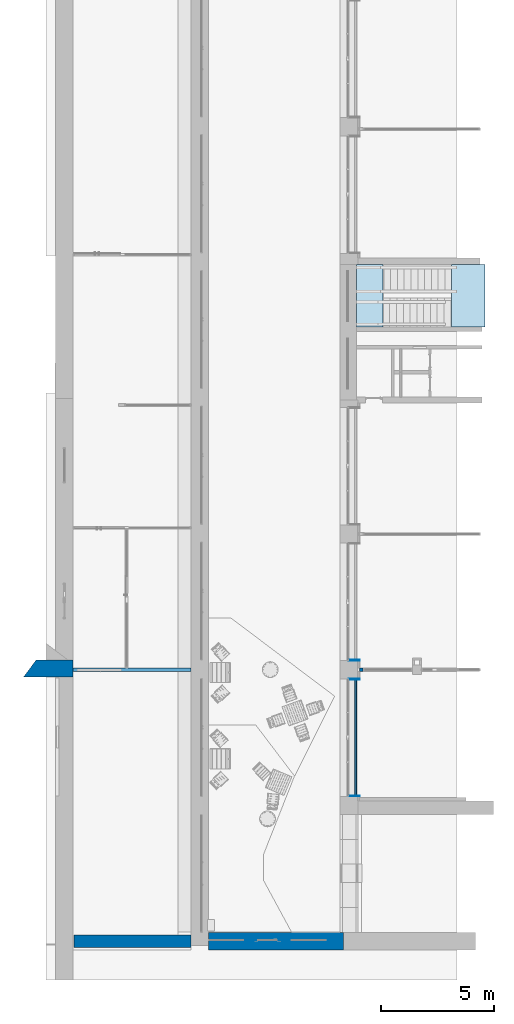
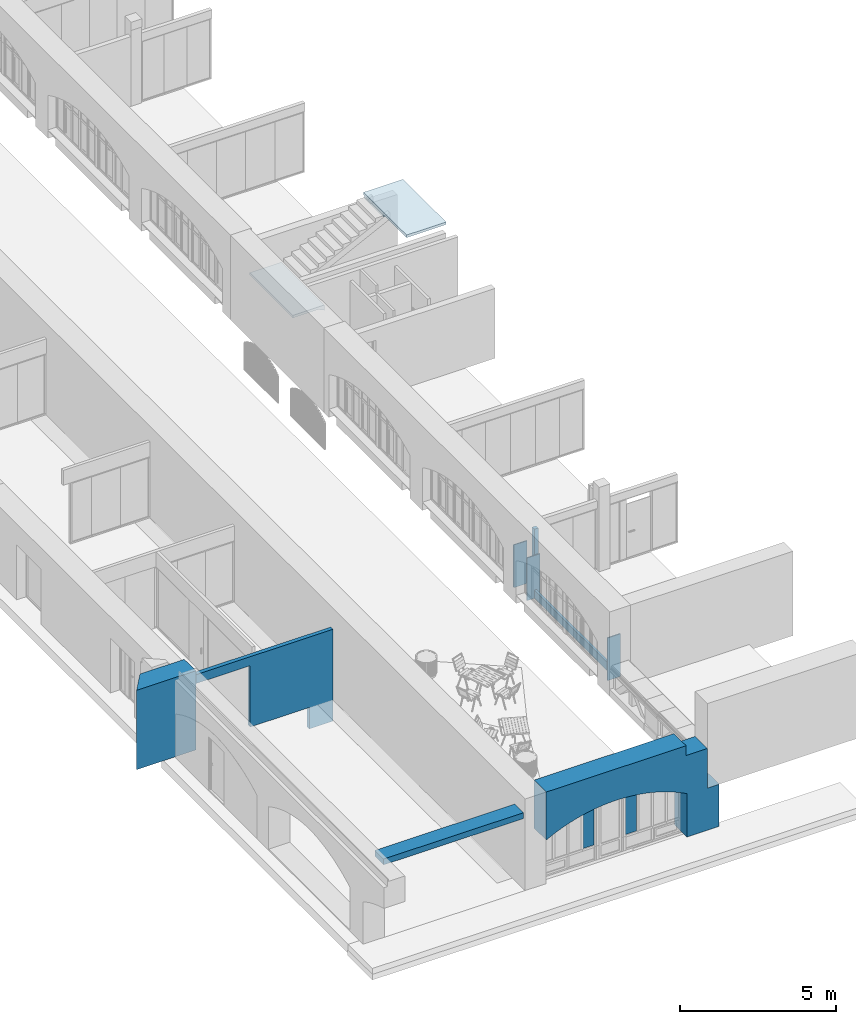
# One storey, part 70 of 88: 9 walls, 2 plates, 2 slabs, 6 openings, 3 elements without a shape of their own.
"""IFC2X3 building model written with IfcOpenShell, lengths in millimetres."""

from ifc_helpers import new_model, entity, si_unit, converted_unit, derived_unit, direction, frame, frame_2d, origin, origin_2d_with_axis, place, context, subcontext, project, spatial, polyline, circle_curve, parameter, trimmed, segment, composite_curve, rectangle, outline, extrude, clip, bounded_halfspace, face_set, faceted_brep, surface_model, source, transform, mapped, material, layer, layer_set, layer_usage, type_object, type_shapes, element, aggregate, save


model = new_model("IFC2X3")

# Units and contexts
model_context = context("Model", 3, precision=0.01, world=origin(), true_north=direction((6.123031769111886e-17, 1.0)))
body_context = subcontext(model_context, "Body", "Model", "MODEL_VIEW")
ifc_project = project(units=[si_unit("LENGTHUNIT", "METRE", prefix="MILLI"), si_unit("AREAUNIT", "SQUARE_METRE"), si_unit("VOLUMEUNIT", "CUBIC_METRE"), converted_unit("PLANEANGLEUNIT", "DEGREE", entity("IfcPlaneAngleMeasure", 0.017453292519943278), si_unit("PLANEANGLEUNIT", "RADIAN"), dimensions=[0, 0, 0, 0, 0, 0, 0]), si_unit("MASSUNIT", "GRAM", prefix="KILO"), derived_unit("MASSDENSITYUNIT", [(si_unit("MASSUNIT", "GRAM", prefix="KILO"), 1), (si_unit("LENGTHUNIT", "METRE"), -3)]), derived_unit("IONCONCENTRATIONUNIT", [(si_unit("MASSUNIT", "GRAM", prefix="KILO"), 1), (si_unit("LENGTHUNIT", "METRE"), -3)]), derived_unit("MOMENTOFINERTIAUNIT", [(si_unit("LENGTHUNIT", "METRE"), 4)]), si_unit("TIMEUNIT", "SECOND"), si_unit("FREQUENCYUNIT", "HERTZ"), si_unit("THERMODYNAMICTEMPERATUREUNIT", "DEGREE_CELSIUS"), derived_unit("THERMALTRANSMITTANCEUNIT", [(si_unit("MASSUNIT", "GRAM", prefix="KILO"), 1), (si_unit("THERMODYNAMICTEMPERATUREUNIT", "KELVIN"), -1), (si_unit("TIMEUNIT", "SECOND"), -3)]), derived_unit("THERMALCONDUCTANCEUNIT", [(si_unit("MASSUNIT", "GRAM", prefix="KILO"), 1), (si_unit("THERMODYNAMICTEMPERATUREUNIT", "KELVIN"), -1), (si_unit("TIMEUNIT", "SECOND"), -3), (si_unit("LENGTHUNIT", "METRE"), 1)]), derived_unit("VOLUMETRICFLOWRATEUNIT", [(si_unit("LENGTHUNIT", "METRE", prefix="DECI"), 3), (si_unit("TIMEUNIT", "SECOND"), -1)]), derived_unit("MASSFLOWRATEUNIT", [(si_unit("MASSUNIT", "GRAM", prefix="KILO"), 1), (si_unit("TIMEUNIT", "SECOND"), -1)]), derived_unit("ROTATIONALFREQUENCYUNIT", [(si_unit("TIMEUNIT", "SECOND"), -1)]), si_unit("ELECTRICCURRENTUNIT", "AMPERE"), si_unit("ELECTRICVOLTAGEUNIT", "VOLT"), si_unit("POWERUNIT", "WATT"), si_unit("FORCEUNIT", "NEWTON", prefix="KILO"), si_unit("ILLUMINANCEUNIT", "LUX"), si_unit("LUMINOUSFLUXUNIT", "LUMEN"), si_unit("LUMINOUSINTENSITYUNIT", "CANDELA"), si_unit("ENERGYUNIT", "JOULE"), derived_unit("USERDEFINED", [(si_unit("MASSUNIT", "GRAM", prefix="KILO"), -1), (si_unit("LENGTHUNIT", "METRE"), -2), (si_unit("TIMEUNIT", "SECOND"), 3), (si_unit("LUMINOUSFLUXUNIT", "LUMEN"), 1)]), derived_unit("USERDEFINED", [(si_unit("MASSUNIT", "GRAM", prefix="KILO"), 1), (si_unit("TIMEUNIT", "SECOND"), -3), (si_unit("LENGTHUNIT", "METRE"), 3), (si_unit("ELECTRICCURRENTUNIT", "AMPERE"), -2)]), derived_unit("SOUNDPOWERUNIT", [(si_unit("MASSUNIT", "GRAM", prefix="KILO"), 1), (si_unit("TIMEUNIT", "SECOND"), -3), (si_unit("LENGTHUNIT", "METRE"), 2)]), derived_unit("SOUNDPRESSUREUNIT", [(si_unit("MASSUNIT", "GRAM", prefix="KILO"), 1), (si_unit("LENGTHUNIT", "METRE"), -1), (si_unit("TIMEUNIT", "SECOND"), -2)]), derived_unit("LINEARVELOCITYUNIT", [(si_unit("LENGTHUNIT", "METRE"), 1), (si_unit("TIMEUNIT", "SECOND"), -1)]), si_unit("PRESSUREUNIT", "PASCAL"), derived_unit("USERDEFINED", [(si_unit("MASSUNIT", "GRAM", prefix="KILO"), 1), (si_unit("LENGTHUNIT", "METRE"), -2), (si_unit("TIMEUNIT", "SECOND"), -2)]), derived_unit("LINEARFORCEUNIT", [(si_unit("MASSUNIT", "GRAM", prefix="KILO"), 1), (si_unit("TIMEUNIT", "SECOND"), -2)]), derived_unit("PLANARFORCEUNIT", [(si_unit("MASSUNIT", "GRAM", prefix="KILO"), 1), (si_unit("LENGTHUNIT", "METRE"), -1), (si_unit("TIMEUNIT", "SECOND"), -2)]), derived_unit("SPECIFICHEATCAPACITYUNIT", [(si_unit("THERMODYNAMICTEMPERATUREUNIT", "KELVIN"), -1), (si_unit("LENGTHUNIT", "METRE"), 2), (si_unit("TIMEUNIT", "SECOND"), -2)]), derived_unit("HEATFLUXDENSITYUNIT", [(si_unit("MASSUNIT", "GRAM", prefix="KILO"), 1), (si_unit("TIMEUNIT", "SECOND"), -3)]), derived_unit("HEATINGVALUEUNIT", [(si_unit("LENGTHUNIT", "METRE"), 2), (si_unit("TIMEUNIT", "SECOND"), -2)]), derived_unit("VAPORPERMEABILITYUNIT", [(si_unit("LENGTHUNIT", "METRE"), -1), (si_unit("TIMEUNIT", "SECOND"), 1)]), derived_unit("DYNAMICVISCOSITYUNIT", [(si_unit("MASSUNIT", "GRAM", prefix="KILO"), 1), (si_unit("TIMEUNIT", "SECOND"), -1), (si_unit("LENGTHUNIT", "METRE"), -1)]), derived_unit("THERMALEXPANSIONCOEFFICIENTUNIT", [(si_unit("THERMODYNAMICTEMPERATUREUNIT", "KELVIN"), -1)]), derived_unit("MODULUSOFELASTICITYUNIT", [(si_unit("MASSUNIT", "GRAM", prefix="KILO"), 1), (si_unit("LENGTHUNIT", "METRE"), -1), (si_unit("TIMEUNIT", "SECOND"), -2)]), derived_unit("ISOTHERMALMOISTURECAPACITYUNIT", [(si_unit("MASSUNIT", "GRAM", prefix="KILO"), -1), (si_unit("LENGTHUNIT", "METRE"), 3)]), derived_unit("MOISTUREDIFFUSIVITYUNIT", [(si_unit("TIMEUNIT", "SECOND"), -1), (si_unit("LENGTHUNIT", "METRE"), 2)]), derived_unit("MASSPERLENGTHUNIT", [(si_unit("MASSUNIT", "GRAM", prefix="KILO"), 1), (si_unit("LENGTHUNIT", "METRE"), -1)]), derived_unit("THERMALRESISTANCEUNIT", [(si_unit("MASSUNIT", "GRAM", prefix="KILO"), -1), (si_unit("TIMEUNIT", "SECOND"), 3), (si_unit("THERMODYNAMICTEMPERATUREUNIT", "KELVIN"), 1)]), derived_unit("ACCELERATIONUNIT", [(si_unit("LENGTHUNIT", "METRE"), 1), (si_unit("TIMEUNIT", "SECOND"), -2)]), derived_unit("ANGULARVELOCITYUNIT", [(si_unit("TIMEUNIT", "SECOND"), -1), (si_unit("PLANEANGLEUNIT", "RADIAN"), 1)]), derived_unit("LINEARSTIFFNESSUNIT", [(si_unit("MASSUNIT", "GRAM", prefix="KILO"), 1), (si_unit("TIMEUNIT", "SECOND"), -2)]), derived_unit("WARPINGCONSTANTUNIT", [(si_unit("LENGTHUNIT", "METRE"), 6)]), derived_unit("LINEARMOMENTUNIT", [(si_unit("MASSUNIT", "GRAM", prefix="KILO"), 1), (si_unit("LENGTHUNIT", "METRE"), 1), (si_unit("TIMEUNIT", "SECOND"), -2)]), derived_unit("TORQUEUNIT", [(si_unit("MASSUNIT", "GRAM", prefix="KILO"), 1), (si_unit("LENGTHUNIT", "METRE"), 2), (si_unit("TIMEUNIT", "SECOND"), -2)])], contexts=[model_context])

# Site, building, storey
site_placement = place(None, origin())
site = spatial("IfcSite", under=ifc_project, at=site_placement, Name="Default", CompositionType="ELEMENT")
building_placement = place(site_placement, origin())
building = spatial("IfcBuilding", under=site, at=building_placement, Name="Eesti Rahvusraamatukogu hoone renoveerimise projekteerimistööd", CompositionType="ELEMENT")
storey_placement = place(building_placement, origin())
storey = spatial("IfcBuildingStorey", under=building, at=storey_placement, Name="1. korrus", CompositionType="ELEMENT", Elevation=0.0)

# Stair, slab
stair_1_placement = place(storey_placement, origin())
stair_1 = element("IfcStair", 1, at=stair_1_placement, inside=storey, Name="Cast-In-Place Stair:Stair", ObjectType="Cast-In-Place Stair:ol. olev trepp, 150x300 H=55", ShapeType="STRAIGHT_RUN_STAIR")
ifc_material_1 = material(Name="ol. olev materjal")
slab_type = type_object("IfcSlabType", Name="Monolithic Landing:100 mm Thickness", PredefinedType="LANDING")
slab_1_placement = place(stair_1_placement, frame((-36060.0, 27545.0, 0.0)))
slab_1 = element("IfcSlab", 2, at=slab_1_placement, type_object=slab_type, material=ifc_material_1, Name="Cast-In-Place Stair:Stair:4087577 Landing 1", ObjectType="Monolithic Landing:100 mm Thickness", PredefinedType="LANDING", context=body_context, shape_type="Brep", body=[
    faceted_brep([(1170.0, 0.0, 3231.666666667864), (1170.0, 1170.0, 3231.666666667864), (1170.0, 2760.0, 3231.666666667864), (0.0, 2760.0, 3231.666666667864), (0.0, 0.0, 3231.666666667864), (948.1567494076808, 0.0, 3231.666666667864), (0.0, 2760.0, 3131.6666666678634), (0.0, 0.0, 3131.6666666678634), (1170.0, 0.0, 3021.9775038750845), (1170.0, 0.0, 3083.3333333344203), (948.1567494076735, 0.0, 3131.666666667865), (1170.0, 2760.0, 3131.6666666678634), (948.1567494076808, 1170.0, 3131.6666666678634), (1170.0, 1170.0, 3131.6666666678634), (1170.0, 1170.0, 3021.9775038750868), (1170.0, 1170.0, 3083.3333333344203)], [[[0, 1, 2, 3, 4, 5]], [[4, 3, 6, 7]], [[8, 9, 0, 5, 4, 7, 10]], [[3, 2, 11, 6]], [[12, 10, 7, 6, 11, 13]], [[1, 0, 9, 8, 14, 15, 13]], [[2, 1, 13, 11]], [[10, 12, 14, 8]], [[12, 13, 15, 14]]]),
])
aggregate(stair_1, [slab_1])

stair_2_placement = place(storey_placement, origin())
stair_2 = element("IfcStair", 3, at=stair_2_placement, inside=storey, Name="Cast-In-Place Stair:Stair", ObjectType="Cast-In-Place Stair:ol. olev trepp, 150x300 H=55", ShapeType="STRAIGHT_RUN_STAIR")
slab_2_placement = place(stair_2_placement, frame((-31850.0, 27545.0, 0.0)))
slab_2 = element("IfcSlab", 4, at=slab_2_placement, type_object=slab_type, material=ifc_material_1, Name="Cast-In-Place Stair:Stair:4087629 Landing 1", ObjectType="Monolithic Landing:100 mm Thickness", PredefinedType="LANDING", context=body_context, shape_type="Brep", body=[
    faceted_brep([(0.0, 2690.0, 4900.000000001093), (0.0, 1490.0, 4900.000000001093), (0.0, 0.0, 4900.000000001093), (1460.0, 0.0, 4900.000000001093), (1460.0, 2760.0, 4900.000000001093), (0.0, 2760.0, 4900.000000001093), (1460.0, 0.0, 4800.000000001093), (1460.0, 2760.0, 4800.000000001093), (0.0, 0.0, 4800.000000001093), (0.0, 2760.0, 4800.000000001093), (221.84325059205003, 1490.0, 4800.000000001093), (221.84325059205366, 2690.0, 4800.000000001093), (0.0, 2690.0, 4800.000000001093), (0.0, 1490.0, 4800.000000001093), (0.0, 2690.0, 4751.66666666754), (0.0, 2690.0, 4690.310837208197), (0.0, 1490.0, 4690.3108372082), (0.0, 1490.0, 4751.66666666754)], [[[0, 1, 2, 3, 4, 5]], [[4, 3, 6, 7]], [[3, 2, 8, 6]], [[5, 4, 7, 9]], [[10, 11, 12, 9, 7, 6, 8, 13]], [[2, 1, 13, 8]], [[1, 0, 12, 14, 15, 16, 17, 13]], [[11, 10, 16, 15]], [[12, 11, 15, 14]], [[10, 13, 17, 16]], [[0, 5, 9, 12]]]),
])
aggregate(stair_2, [slab_2])

# Curtain wall, plates
curtain_wall_type = type_object("IfcCurtainWallType", Name="Curtain Wall:Ak-05", PredefinedType="NOTDEFINED")
curtain_wall_placement = place(storey_placement, origin())
curtain_wall = element("IfcCurtainWall", 5, at=curtain_wall_placement, inside=storey, type_object=curtain_wall_type, Name="Curtain Wall:Ak-05", ObjectType="Curtain Wall:Ak-05")
ifc_material_2 = material(Name="EST. Klaas. 3x. Default")
plate_type_1 = type_object("IfcPlateType", Name="System Panel:Peegelaknad 6-16-4-16-4, paneel", PredefinedType="CURTAIN_PANEL", material=ifc_material_2)
shared_shape_1 = source(origin(), body_context, "Body", "SurfaceModel", [
    surface_model("IfcFaceBasedSurfaceModel", [(-245.0, -5.0, 0.0), (170.0, -5.0, 0.0), (170.0, -5.0, 1750.0), (245.0, -5.0, 1750.0), (245.0, -5.0, 1727.071862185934), (93.20177957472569, -5.0, 1710.9791643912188), (-58.08758672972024, -5.0, 1690.6517865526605), (-151.678630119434, -5.0, 1675.9125069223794), (-245.0, -5.0, 1659.5524430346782), (-245.0, 5.0, 0.0), (-245.0, 5.0, 1659.55244303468), (-151.678630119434, 5.0, 1675.9125069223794), (-58.087586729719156, 5.0, 1690.6517865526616), (93.20177957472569, 5.0, 1710.9791643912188), (245.0, 5.0, 1727.0718621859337), (245.0, 5.0, 1750.0), (170.0, 5.0, 1750.0), (170.0, 5.0, 0.0)], [face_set([[[0, 1, 2, 3, 4, 5, 6, 7, 8]], [[9, 10, 11, 12, 13, 14, 15, 16, 17]], [[1, 0, 9, 17]], [[2, 1, 17, 16]], [[3, 15, 16, 2]], [[4, 14, 15, 3]], [[5, 4, 14, 13]], [[12, 6, 5, 13]], [[7, 6, 12, 11]], [[10, 8, 7, 11]], [[0, 8, 10, 9]]])]),
])
type_shapes(plate_type_1, [shared_shape_1])
plate_1_placement = place(curtain_wall_placement, frame((-39245.0, 440.0, 540.0), z_axis=(0.0, 0.0, 1.0), x_axis=(-1.0, 0.0, 0.0)))
plate_1 = element("IfcPlate", 6, at=plate_1_placement, type_object=plate_type_1, material=ifc_material_2, Name="System Panel:Peegelaknad 6-16-4-16-4, paneel", ObjectType="System Panel:Peegelaknad 6-16-4-16-4, paneel", context=body_context, shape_type="MappedRepresentation", body=[
    mapped(shared_shape_1, transform((0.0, 0.0, 0.0), scale=1.0)),
])
plate_type_2 = type_object("IfcPlateType", Name="System Panel:Peegelaknad 6-16-4-16-4, paneel", PredefinedType="CURTAIN_PANEL", material=ifc_material_2)
shared_shape_2 = source(origin(), body_context, "Body", "SurfaceModel", [
    surface_model("IfcFaceBasedSurfaceModel", [(-170.0, -5.0, 0.0), (245.0, -5.0, 0.0), (245.0, -5.0, 1659.552443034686), (151.67863011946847, -5.0, 1675.9125069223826), (58.087586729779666, -5.0, 1690.6517865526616), (-93.20177957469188, -5.0, 1710.979164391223), (-245.0, -5.0, 1727.0718621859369), (-245.0, -5.0, 1750.0), (-170.0, -5.0, 1750.0), (-170.0, 5.0, 0.0), (245.0, 5.0, 0.0), (245.0, 5.0, 1659.552443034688), (151.67863011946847, 5.0, 1675.9125069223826), (58.087586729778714, 5.0, 1690.6517865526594), (-93.20177957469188, 5.0, 1710.979164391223), (-245.0, 5.0, 1727.0718621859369), (-245.0, 5.0, 1750.0), (-170.0, 5.0, 1750.0)], [face_set([[[0, 1, 2, 3, 4, 5, 6, 7, 8]], [[9, 10, 11, 12, 13, 14, 15, 16, 17]], [[1, 0, 9, 10]], [[2, 1, 10, 11]], [[3, 2, 11, 12]], [[13, 4, 3, 12]], [[5, 4, 13, 14]], [[15, 6, 5, 14]], [[7, 16, 15, 6]], [[8, 17, 16, 7]], [[0, 8, 17, 9]]])]),
])
type_shapes(plate_type_2, [shared_shape_2])
plate_2_placement = place(curtain_wall_placement, frame((-40735.0, 440.0, 540.0), z_axis=(0.0, 0.0, 1.0), x_axis=(-1.0, 0.0, 0.0)))
plate_2 = element("IfcPlate", 7, at=plate_2_placement, type_object=plate_type_2, material=ifc_material_2, Name="System Panel:Peegelaknad 6-16-4-16-4, paneel", ObjectType="System Panel:Peegelaknad 6-16-4-16-4, paneel", context=body_context, shape_type="MappedRepresentation", body=[
    mapped(shared_shape_2, transform((0.0, 0.0, 0.0), scale=1.0)),
])
aggregate(curtain_wall, [plate_1, plate_2])

# Wall, openings
ifc_layer_1 = layer(ifc_material_1, 780.0)
ifc_layer_set_1 = layer_set([ifc_layer_1], Name="Basic Wall:ol. olev - 780mm")
ifc_layer_usage_1 = layer_usage(ifc_layer_set_1, "AXIS2", "NEGATIVE", 390.0)
wall_type_1 = type_object("IfcWallType", Name="Basic Wall:ol. olev - 780mm", PredefinedType="STANDARD", material=ifc_layer_set_1)
wall_1_placement = place(storey_placement, frame((-36190.0, 390.0, 0.0), z_axis=(0.0, 0.0, 1.0), x_axis=(-1.0, 0.0, 0.0)))
wall_1 = element("IfcWallStandardCase", 8, at=wall_1_placement, inside=storey, type_object=wall_type_1, material=ifc_layer_usage_1, Name="Basic Wall:ol. olev - 780mm", ObjectType="Basic Wall:ol. olev - 780mm", context=body_context, shape_type="Clipping", body=[
    clip(clip(clip(clip(extrude(rectangle(XDim=6400.000000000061, YDim=779.9999999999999, at=frame_2d((3200.0000000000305, 2.842170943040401e-14), x_axis=(-1.0, 0.0))), origin(), (0.0, 0.0, 1.0), 3580.0), bounded_halfspace(frame((1220.0, 390.0, 3200.0), z_axis=(1.0, 0.0, 0.0), x_axis=(0.0, 1.0, 0.0)), True, frame((1220.0, 390.0, 3200.0), z_axis=(1.0, 0.0, 0.0), x_axis=(0.0, 1.0, 0.0)), polyline([(0.0, 0.0), (0.0, 380.0), (-780.0, 380.0), (-780.0, 0.0), (0.0, 0.0)]))), bounded_halfspace(frame((1220.0, -390.0, 3200.0), z_axis=(0.0, 0.0, -1.0), x_axis=(1.0, 0.0, 0.0)), True, frame((1220.0, -390.0, 3200.0), z_axis=(0.0, 0.0, -1.0), x_axis=(1.0, 0.0, 0.0)), polyline([(0.0, 0.0), (-780.0, 0.0), (-780.0, -780.0), (0.0, -780.0), (0.0, 0.0)]))), bounded_halfspace(frame((440.0, -390.0, 1650.0), z_axis=(0.0, 0.0, -1.0), x_axis=(0.0, 1.0, 0.0)), True, frame((440.0, -390.0, 1650.0), z_axis=(0.0, 0.0, -1.0), x_axis=(0.0, 1.0, 0.0)), polyline([(0.0, 0.0), (0.0, -439.826577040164), (0.0, -440.0), (780.0, -440.0), (780.0, 0.0), (0.0, 0.0)]))), bounded_halfspace(frame((440.0, 390.0, 1650.0), z_axis=(1.0, 0.0, 0.0), x_axis=(0.0, 1.0, 0.0)), True, frame((440.0, 390.0, 1650.0), z_axis=(1.0, 0.0, 0.0), x_axis=(0.0, 1.0, 0.0)), polyline([(0.0, 0.0), (0.0, 1550.0), (-780.0, 1550.0), (-780.0, 0.0), (0.0, 0.0)]))),
])
opening_1_placement = place(wall_1_placement, frame((6401.595272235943, 542.4000000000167, -50.0)))
element("IfcOpeningElement", 9, at=opening_1_placement, cuts=wall_1, Name="Basic Wall:ol. olev - 780mm", ObjectType="Opening", context=body_context, shape_type="SweptSolid", body=[
    extrude(outline(composite_curve([segment(polyline([(-874.8853279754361, -2600.0), (874.8853279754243, -2600.0)]), True, "CONTINUOUS"), segment(trimmed(circle_curve(frame_2d((-3998.1658947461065, 0.0), x_axis=(0.0, -1.0)), 5523.28056677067), [parameter(61.91799981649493)], [parameter(118.08200018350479)], True, "PARAMETER"), True, "CONTINUOUS"), segment(polyline([(874.885327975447, 2600.0), (-874.8853279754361, 2600.0)]), True, "CONTINUOUS"), segment(polyline([(-874.8853279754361, 2600.0), (-874.8853279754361, -2600.0)]), True, "CONTINUOUS")], self_intersect=False)), frame((-2601.595272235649, -1084.800000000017, 874.8853279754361), z_axis=(0.0, 1.0, 0.0), x_axis=(0.0, 0.0, 1.0)), (0.0, 0.0, 1.0), 1084.8),
])
opening_2_placement = place(wall_1_placement, frame((-36190.0, 390.0, 0.0)))
element("IfcOpeningElement", 10, at=opening_2_placement, cuts=wall_1, Name="Basic Wall:ol. olev - 780mm", ObjectType="Opening", context=body_context, shape_type="Brep", body=[
    faceted_brep([(30000.0, 0.0, 0.0), (30000.0, 0.0, 1660.0), (30000.0, 442.85686824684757, 1885.1089561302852), (30000.0, 904.3315182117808, 2069.0583929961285), (30000.0, 1263.7008843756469, 2166.8178757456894), (30000.0, 1623.0702505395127, 2264.577358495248), (30000.0, 2114.136035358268, 2339.748116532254), (30000.0, 2610.0, 2370.0), (30000.0, 3105.863964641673, 2339.748116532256), (30000.0, 3596.9297494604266, 2264.5773584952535), (30000.0, 3956.299115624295, 2166.8178757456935), (30000.0, 4315.668481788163, 2069.0583929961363), (30000.0, 4777.143131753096, 1885.108956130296), (30000.0, 5220.0, 1660.0), (30000.0, 5220.0, 0.0), (30780.0, 5220.0, 0.0), (30780.0, 5220.0, 1660.0), (30780.0, 4777.143131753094, 1885.108956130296), (30780.0, 4315.668481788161, 2069.0583929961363), (30780.0, 3956.2991156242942, 2166.817875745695), (30780.0, 3596.9297494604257, 2264.5773584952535), (30780.0, 3105.8639646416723, 2339.748116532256), (30780.0, 2610.0, 2370.0), (30780.0, 2114.1360353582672, 2339.748116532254), (30780.0, 1623.0702505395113, 2264.577358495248), (30780.0, 1263.700884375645, 2166.817875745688), (30780.0, 904.3315182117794, 2069.0583929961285), (30780.0, 442.8568682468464, 1885.1089561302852), (30780.0, 0.0, 1660.0), (30780.0, 0.0, 0.0)], [[[0, 1, 2, 3, 4, 5, 6, 7, 8, 9, 10, 11, 12, 13, 14]], [[15, 16, 17, 18, 19, 20, 21, 22, 23, 24, 25, 26, 27, 28, 29]], [[1, 0, 29, 28]], [[2, 1, 28, 27]], [[3, 2, 27, 26]], [[5, 4, 3, 26, 25, 24]], [[6, 5, 24, 23]], [[7, 6, 23, 22]], [[8, 7, 22, 21]], [[9, 8, 21, 20]], [[11, 10, 9, 20, 19, 18]], [[12, 11, 18, 17]], [[13, 12, 17, 16]], [[14, 13, 16, 15]], [[0, 14, 15, 29]]]),
])
opening_3_placement = place(wall_1_placement, frame((12390.0, 542.4000000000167, 0.0)))
element("IfcOpeningElement", 11, at=opening_3_placement, cuts=wall_1, Name="Basic Wall:ol. olev - 780mm", ObjectType="Opening", context=body_context, shape_type="SweptSolid", body=[
    extrude(rectangle(XDim=2550.000000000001, YDim=5199.999999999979, at=origin_2d_with_axis()), frame((-2600.0, -1084.800000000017, 1275.0), z_axis=(0.0, 1.0, 0.0), x_axis=(0.0, 0.0, 1.0)), (0.0, 0.0, 1.0), 1084.8),
])

# Walls
ifc_layer_2 = layer(ifc_material_1, 740.0)
ifc_layer_set_2 = layer_set([ifc_layer_2], Name="Basic Wall:ol. olev - 740mm")
ifc_layer_usage_2 = layer_usage(ifc_layer_set_2, "AXIS2", "NEGATIVE", 370.0)
wall_type_2 = type_object("IfcWallType", Name="Basic Wall:ol. olev - 740mm", PredefinedType="STANDARD", material=ifc_layer_set_2)
wall_2_placement = place(storey_placement, frame((-48580.0, 12445.0, 0.0), z_axis=(0.0, 0.0, 1.0), x_axis=(-1.0, 0.0, 0.0)))
element("IfcWallStandardCase", 12, at=wall_2_placement, inside=storey, type_object=wall_type_2, material=ifc_layer_usage_2, Name="Basic Wall:ol. olev - 740mm", ObjectType="Basic Wall:ol. olev - 740mm", context=body_context, shape_type="SweptSolid", body=[
    extrude(outline(polyline([(1639.8146096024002, -370.0), (2193.1550955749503, 370.0), (1281.6364076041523, 370.0), (780.0, 370.0), (0.0, 370.0), (0.0, -370.0), (222.41069222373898, -370.0), (1385.558791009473, -370.0), (1639.8146096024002, -370.0)])), origin(), (0.0, 0.0, 1.0), 3100.0),
])
ifc_material_3 = material(Name="EST. Ehitusplaat. Kipsplaat")
ifc_layer_3 = layer(ifc_material_3, 12.5)
ifc_layer_4 = layer(ifc_material_3, 12.5)
ifc_material_4 = material(Name="EST. Roov. Kipsplaadi alusroov.Mineraalvillaga. Vertikaalne")
ifc_layer_5 = layer(ifc_material_4, 95.00000000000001)
ifc_layer_6 = layer(ifc_material_3, 12.5)
ifc_layer_7 = layer(ifc_material_3, 12.5)
ifc_layer_set_3 = layer_set([ifc_layer_3, ifc_layer_4, ifc_layer_5, ifc_layer_6, ifc_layer_7], Name="Basic Wall:SS-52 - 145 kergsein 48db")
ifc_layer_usage_3 = layer_usage(ifc_layer_set_3, "AXIS2", "NEGATIVE", 72.5)
wall_type_3 = type_object("IfcWallType", Name="Basic Wall:SS-52 - 145 kergsein 48db", PredefinedType="STANDARD", material=ifc_layer_set_3)
wall_3_placement = place(storey_placement, frame((-35765.49999999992, 12390.0, 1650.000000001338), z_axis=(0.0, 0.0, 1.0), x_axis=(-1.0, 0.0, 0.0)))
element("IfcWallStandardCase", 13, at=wall_3_placement, inside=storey, type_object=wall_type_3, material=ifc_layer_usage_3, Name="Basic Wall:SS-52 - 145 kergsein 48db", ObjectType="Basic Wall:SS-52 - 145 kergsein 48db", context=body_context, shape_type="SweptSolid", body=[
    extrude(rectangle(XDim=150.00000000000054, YDim=145.00000000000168, at=frame_2d((75.00000000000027, 0.0), x_axis=(-1.0, 0.0))), origin(), (0.0, 0.0, 1.0), 2400.0),
])

# Wall, openings
ifc_material_5 = material(Name="EST. Müüritis. Väikeplokk. Betoon-õõnesplokk")
ifc_layer_8 = layer(ifc_material_5, 150.0)
ifc_layer_set_4 = layer_set([ifc_layer_8], Name="Basic Wall:SS-71 - 150 poorbetoon acoustic")
ifc_layer_usage_4 = layer_usage(ifc_layer_set_4, "AXIS2", "NEGATIVE", 75.0)
wall_type_4 = type_object("IfcWallType", Name="Basic Wall:SS-71 - 150 poorbetoon acoustic", PredefinedType="STANDARD", material=ifc_layer_set_4)
wall_4_placement = place(storey_placement, frame((-43370.0, 12390.0, -840.0), z_axis=(0.0, 0.0, 1.0), x_axis=(-1.0, 0.0, 0.0)))
wall_4 = element("IfcWallStandardCase", 14, at=wall_4_placement, inside=storey, type_object=wall_type_4, material=ifc_layer_usage_4, Name="Basic Wall:SS-71 - 150 poorbetoon acoustic", ObjectType="Basic Wall:SS-71 - 150 poorbetoon acoustic", context=body_context, shape_type="SweptSolid", body=[
    extrude(rectangle(XDim=5210.000000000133, YDim=150.00000000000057, at=frame_2d((2605.0000000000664, -3.197442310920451e-13), x_axis=(-1.0, 0.0))), origin(), (0.0, 0.0, 1.0), 3590.000000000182),
])
opening_4_placement = place(wall_4_placement, origin())
element("IfcOpeningElement", 15, at=opening_4_placement, cuts=wall_4, Name="Basic Wall:SS-71 - 150 poorbetoon acoustic", ObjectType="Opening", context=body_context, shape_type="SweptSolid", body=[
    extrude(rectangle(XDim=840.0, YDim=4730.00000000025, at=frame_2d((-4.547473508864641e-12, 8.526512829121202e-14), x_axis=(0.0, 1.0))), frame((3235.0, 75.0, 420.0), z_axis=(0.0, -1.0, 0.0), x_axis=(-1.0, 0.0, 0.0)), (0.0, 0.0, 1.0), 150.0),
])
opening_5_placement = place(wall_4_placement, origin())
element("IfcOpeningElement", 16, at=opening_5_placement, cuts=wall_4, Name="Basic Wall:SS-71 - 150 poorbetoon acoustic", ObjectType="Opening", context=body_context, shape_type="SweptSolid", body=[
    extrude(rectangle(XDim=840.0, YDim=389.999999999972, at=frame_2d((0.0, 4.320099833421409e-12), x_axis=(1.0, 0.0))), frame((-195.0, 75.0, 420.0), z_axis=(0.0, -1.0, 0.0), x_axis=(0.0, 0.0, 1.0)), (0.0, 0.0, 1.0), 150.0),
])
opening_6_placement = place(wall_4_placement, frame((3060.0, -75.0, 840.0)))
element("IfcOpeningElement", 17, at=opening_6_placement, cuts=wall_4, Name="SMA_D02, 2-poolne:2000x2400mm EI30 laskuv lävep. 2:1", ObjectType="Opening", context=body_context, shape_type="SweptSolid", body=[
    extrude(rectangle(XDim=2399.999999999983, YDim=2000.0000000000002, at=frame_2d((1199.9999999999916, 1000.0000000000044), x_axis=(1.0, 0.0))), frame((0.0, 0.0, 0.0), z_axis=(0.0, 1.0, 0.0), x_axis=(0.0, 0.0, 1.0)), (0.0, 0.0, 1.0), 150.0),
])

# Walls
ifc_material_6 = material(Name="EST. Soojustus.PIR_Powerwall Pro")
ifc_layer_9 = layer(ifc_material_6, 30.0)
ifc_material_7 = material(Name="EST. Metall. Alumiinium. Mütsprofiil.")
ifc_layer_10 = layer(ifc_material_7, 42.0)
ifc_layer_11 = layer(ifc_material_3, 12.5)
ifc_layer_set_5 = layer_set([ifc_layer_9, ifc_layer_10, ifc_layer_11], Name="Basic Wall:VS-03.1 - soojustus")
ifc_layer_usage_5 = layer_usage(ifc_layer_set_5, "AXIS2", "POSITIVE", -42.25000000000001)
wall_type_5 = type_object("IfcWallType", Name="Basic Wall:VS-03.1 - soojustus", PredefinedType="STANDARD", material=ifc_layer_set_5)
wall_5_placement = place(storey_placement, frame((-36087.74999999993, 11950.499999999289, 1650.0), z_axis=(0.0, 0.0, 1.0), x_axis=(0.0, -1.0, 0.0)))
element("IfcWallStandardCase", 18, at=wall_5_placement, inside=storey, type_object=wall_type_5, material=ifc_layer_usage_5, Name="Basic Wall:VS-03.1 - soojustus", ObjectType="Basic Wall:VS-03.1 - soojustus", context=body_context, shape_type="SweptSolid", body=[
    extrude(rectangle(XDim=5120.999999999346, YDim=84.49999999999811, at=frame_2d((2560.499999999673, 0.0), x_axis=(-1.0, 0.0))), origin(), (0.0, 0.0, 1.0), 319.99999999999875),
])
ifc_layer_12 = layer(ifc_material_1, 560.0)
ifc_layer_set_6 = layer_set([ifc_layer_12], Name="Basic Wall:ol. olev - 560mm")
ifc_layer_usage_6 = layer_usage(ifc_layer_set_6, "AXIS2", "NEGATIVE", 280.0)
wall_type_6 = type_object("IfcWallType", Name="Basic Wall:ol. olev - 560mm", PredefinedType="STANDARD", material=ifc_layer_set_6)
wall_6_placement = place(storey_placement, frame((-43370.0, 387.5000000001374, 2750.0), z_axis=(0.0, 0.0, 1.0), x_axis=(-1.0, 0.0, 0.0)))
element("IfcWallStandardCase", 19, at=wall_6_placement, inside=storey, type_object=wall_type_6, material=ifc_layer_usage_6, Name="Basic Wall:ol. olev - 560mm", ObjectType="Basic Wall:ol. olev - 560mm", context=body_context, shape_type="SweptSolid", body=[
    extrude(rectangle(XDim=5174.999999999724, YDim=560.0, at=frame_2d((2587.499999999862, -8.526512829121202e-14), x_axis=(-1.0, 0.0))), origin(), (0.0, 0.0, 1.0), 230.00000000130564),
])
ifc_layer_13 = layer(ifc_material_7, 27.0)
ifc_layer_14 = layer(ifc_material_3, 12.5)
ifc_layer_set_7 = layer_set([ifc_layer_13, ifc_layer_14], Name="Basic Wall:VS-03.1_karkass+kips")
ifc_layer_usage_7 = layer_usage(ifc_layer_set_7, "AXIS2", "POSITIVE", -19.749999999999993)
wall_type_7 = type_object("IfcWallType", Name="Basic Wall:VS-03.1_karkass+kips", PredefinedType="STANDARD", material=ifc_layer_set_7)
wall_7_placement = place(storey_placement, frame((-35915.49999999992, 11970.249999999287, 1650.0), z_axis=(0.0, 0.0, 1.0), x_axis=(-1.0, 0.0, 0.0)))
element("IfcWallStandardCase", 20, at=wall_7_placement, inside=storey, type_object=wall_type_7, material=ifc_layer_usage_7, Name="Basic Wall:VS-03.1_karkass+kips", ObjectType="Basic Wall:VS-03.1_karkass+kips", context=body_context, shape_type="SweptSolid", body=[
    extrude(rectangle(XDim=489.4999999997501, YDim=39.49999999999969, at=frame_2d((244.74999999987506, -2.184918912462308e-13), x_axis=(-1.0, 0.0))), origin(), (0.0, 0.0, 1.0), 1669.9999999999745),
])
ifc_layer_usage_8 = layer_usage(ifc_layer_set_7, "AXIS2", "NEGATIVE", 19.749999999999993)
wall_8_placement = place(storey_placement, frame((-35915.49999999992, 6809.7499999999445, 1650.0), z_axis=(0.0, 0.0, 1.0), x_axis=(-1.0, 0.0, 0.0)))
element("IfcWallStandardCase", 21, at=wall_8_placement, inside=storey, type_object=wall_type_7, material=ifc_layer_usage_8, Name="Basic Wall:VS-03.1_karkass+kips", ObjectType="Basic Wall:VS-03.1_karkass+kips", context=body_context, shape_type="SweptSolid", body=[
    extrude(rectangle(XDim=489.4999999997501, YDim=39.49999999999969, at=frame_2d((244.74999999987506, 2.2026824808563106e-13), x_axis=(-1.0, 0.0))), origin(), (0.0, 0.0, 1.0), 1669.9999999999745),
])
ifc_layer_usage_9 = layer_usage(ifc_layer_set_7, "AXIS2", "NEGATIVE", 19.749999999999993)
wall_9_placement = place(storey_placement, frame((-35915.499999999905, 12809.749999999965, 1650.0), z_axis=(0.0, 0.0, 1.0), x_axis=(-1.0, 0.0, 0.0)))
element("IfcWallStandardCase", 22, at=wall_9_placement, inside=storey, type_object=wall_type_7, material=ifc_layer_usage_9, Name="Basic Wall:VS-03.1_karkass+kips", ObjectType="Basic Wall:VS-03.1_karkass+kips", context=body_context, shape_type="SweptSolid", body=[
    extrude(rectangle(XDim=489.4999999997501, YDim=39.49999999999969, at=frame_2d((244.74999999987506, 2.2026824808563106e-13), x_axis=(-1.0, 0.0))), origin(), (0.0, 0.0, 1.0), 1669.9999999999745),
])

save(model, "model.ifc")
